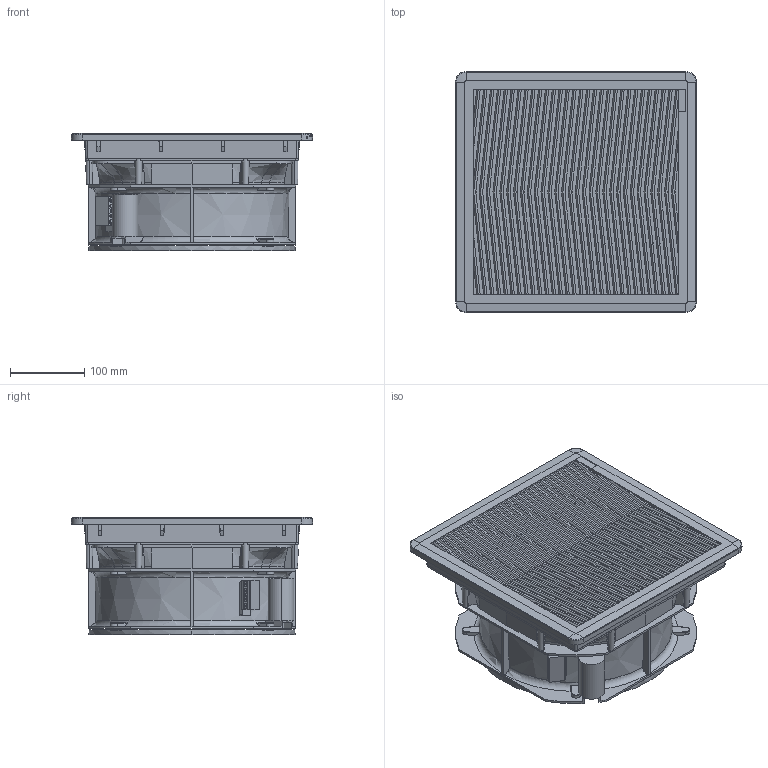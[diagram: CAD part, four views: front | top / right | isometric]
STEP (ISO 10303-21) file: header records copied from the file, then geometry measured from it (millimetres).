
FILE_DESCRIPTION (( 'STEP AP214' ), '1' );
FILE_NAME ('FF20GA400TyE.STEP', '2023-10-06T13:08:44', ( '' ), ( '' ), 'SwSTEP 2.0', 'SolidWorks 2022', '' );
FILE_SCHEMA (( 'AUTOMOTIVE_DESIGN' ));
Length unit declared in the file: millimetre
Products named in the file (11): DT-04082DSI_mostrina semplificata; DT-01375DSI_semplificata; 040014_LK_980-01-4_Semplificata; DT-01516DSI_Cond. con codolo 12microF 250V UL; DT-00228DSI_Semplificata; DT-00230DSI_Semplificato; DT-01464DSI_Semplificata; DT-01478DSI_Assieme semplificato; DT-01480DSI_Semplificata; FF20GA400TyE; DT-01552DSI_semplificata
Assembly tree (10 placements, depth 3):
  FF20GA400TyE
    DT-01552DSI_semplificata
      DT-00228DSI_Semplificata
    DT-01375DSI_semplificata
    DT-00230DSI_Semplificato
    DT-01480DSI_Semplificata
    DT-01478DSI_Assieme semplificato
      DT-01464DSI_Semplificata
      DT-01516DSI_Cond. con codolo 12microF 250V UL
      040014_LK_980-01-4_Semplificata
    DT-04082DSI_mostrina semplificata
Bounding box: 325 x 325 x 158.35 mm (x, y, z)
Volume: 10170610.2 mm3; surface area: 1119182.6 mm2
Topology: 8 solids, 8 shells, 1125 faces, 3370 edges, 2271 vertices
Faces by surface type: plane 826, bspline 108, cylinder 96, torus 49, cone 46
Entity records: 51985 total; most frequent: CARTESIAN_POINT 21706, ORIENTED_EDGE 6740, DIRECTION 5306, EDGE_CURVE 3370, VECTOR 2554, LINE 2554, VERTEX_POINT 2271, AXIS2_PLACEMENT_3D 1376
